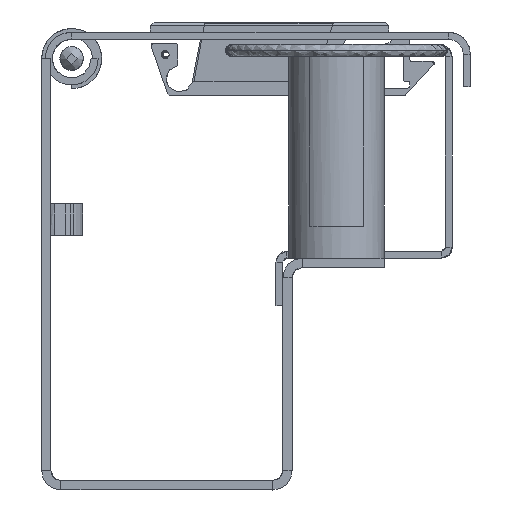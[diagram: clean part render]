
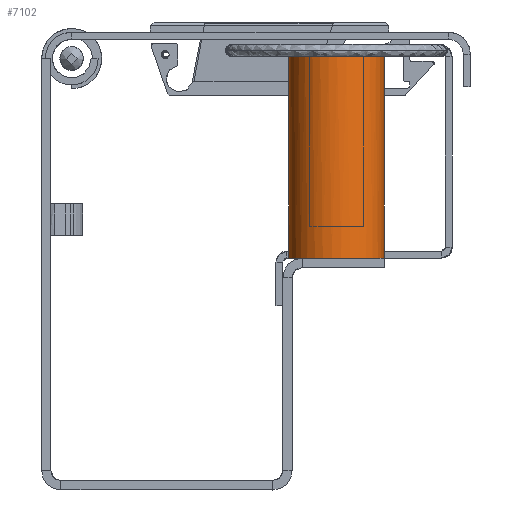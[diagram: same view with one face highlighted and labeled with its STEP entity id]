
A CAD part, front view. The second image highlights one B-rep face of the part: STEP entity #7102.
In plain terms, the highlighted free-form (B-spline) face has degree [2, 1] with [7, 2] control points.
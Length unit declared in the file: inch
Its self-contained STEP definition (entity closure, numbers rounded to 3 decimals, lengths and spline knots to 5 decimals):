
#7027=CARTESIAN_POINT('V1',(41.15269,106.23689,
   19.80976));
#7028=VERTEX_POINT('V1',#7027);
#7029=CARTESIAN_POINT('E1',(41.15269,106.23689,
   19.80976));
#7030=CARTESIAN_POINT('E1',(41.15269,105.58737,
   19.80976));
#7031=CARTESIAN_POINT('E1',(41.71519,105.91213,
   19.80976));
#7032=CARTESIAN_POINT('E1',(42.27769,106.23689,
   19.80976));
#7033=CARTESIAN_POINT('E1',(41.71519,106.56165,
   19.80976));
#7034=CARTESIAN_POINT('E1',(41.15269,106.88641,
   19.80976));
#7035=CARTESIAN_POINT('E1',(41.15269,106.23689,
   19.80976));
#7043=(BOUNDED_CURVE()B_SPLINE_CURVE(2,(#7029,#7030,#7031,#7032,
   #7033,#7034,#7035),.CIRCULAR_ARC.,.T.,.U.)
   B_SPLINE_CURVE_WITH_KNOTS((3,2,2,3),(0.0,0.33333,
   0.66667,1.0),.UNSPECIFIED.)CURVE()
   GEOMETRIC_REPRESENTATION_ITEM()RATIONAL_B_SPLINE_CURVE((1.0,
   0.5,1.0,0.5,1.0,0.5,1.0)
   )REPRESENTATION_ITEM('E1'));
#7044=EDGE_CURVE('E1',#7028,#7028,#7043,.T.);
#7052=CARTESIAN_POINT('F3',(41.15269,106.23689,
   21.48976));
#7053=CARTESIAN_POINT('F3',(41.15269,106.88641,
   21.48976));
#7054=CARTESIAN_POINT('F3',(41.71519,106.56165,
   21.48976));
#7055=CARTESIAN_POINT('F3',(42.27769,106.23689,
   21.48976));
#7056=CARTESIAN_POINT('F3',(41.71519,105.91213,
   21.48976));
#7057=CARTESIAN_POINT('F3',(41.15269,105.58737,
   21.48976));
#7058=CARTESIAN_POINT('F3',(41.15269,106.23689,
   21.48976));
#7059=CARTESIAN_POINT('F3',(41.15269,106.23689,
   19.80976));
#7060=CARTESIAN_POINT('F3',(41.15269,106.88641,
   19.80976));
#7061=CARTESIAN_POINT('F3',(41.71519,106.56165,
   19.80976));
#7062=CARTESIAN_POINT('F3',(42.27769,106.23689,
   19.80976));
#7063=CARTESIAN_POINT('F3',(41.71519,105.91213,
   19.80976));
#7064=CARTESIAN_POINT('F3',(41.15269,105.58737,
   19.80976));
#7065=CARTESIAN_POINT('F3',(41.15269,106.23689,
   19.80976));
#7073=(BOUNDED_SURFACE()B_SPLINE_SURFACE(2,1,((#7052,#7059),(
   #7053,#7060),(#7054,#7061),(#7055,#7062),(#7056,#7063),(
   #7057,#7064),(#7058,#7065)),.CYLINDRICAL_SURF.,.T.,.F.,.U.)
   B_SPLINE_SURFACE_WITH_KNOTS((3,2,2,3),(2,2),(0.0,
   0.77324,1.54647,2.31971),(0.0,1.0),
   .UNSPECIFIED.)GEOMETRIC_REPRESENTATION_ITEM()
   RATIONAL_B_SPLINE_SURFACE(((1.0,1.0),(0.5,
   0.5),(1.0,1.0),(0.5,
   0.5),(1.0,1.0),(0.5,
   0.5),(1.0,1.0)))REPRESENTATION_ITEM('F3')SURFACE()
   );
#7074=CARTESIAN_POINT('V5',(41.15269,106.23689,
   21.39601));
#7075=VERTEX_POINT('V5',#7074);
#7076=CARTESIAN_POINT('E6',(41.15269,106.23689,
   21.39601));
#7077=CARTESIAN_POINT('E6',(41.15269,106.88641,
   21.39601));
#7078=CARTESIAN_POINT('E6',(41.71519,106.56165,
   21.39601));
#7079=CARTESIAN_POINT('E6',(42.27769,106.23689,
   21.39601));
#7080=CARTESIAN_POINT('E6',(41.71519,105.91213,
   21.39601));
#7081=CARTESIAN_POINT('E6',(41.15269,105.58737,
   21.39601));
#7082=CARTESIAN_POINT('E6',(41.15269,106.23689,
   21.39601));
#7090=(BOUNDED_CURVE()B_SPLINE_CURVE(2,(#7076,#7077,#7078,#7079,
   #7080,#7081,#7082),.CIRCULAR_ARC.,.T.,.U.)
   B_SPLINE_CURVE_WITH_KNOTS((3,2,2,3),(0.0,0.33333,
   0.66667,1.0),.UNSPECIFIED.)CURVE()
   GEOMETRIC_REPRESENTATION_ITEM()RATIONAL_B_SPLINE_CURVE((1.0,
   0.5,1.0,0.5,1.0,0.5,1.0)
   )REPRESENTATION_ITEM('E6'));
#7091=EDGE_CURVE('E6',#7075,#7075,#7090,.T.);
#7092=ORIENTED_EDGE('E6',*,*,#7091,.F.);
#7093=CARTESIAN_POINT('E7',(41.15269,106.23689,
   19.80976));
#7094=CARTESIAN_POINT('E7',(41.15269,106.23689,
   21.39601));
#7095=B_SPLINE_CURVE_WITH_KNOTS('E7',1,(#7093,#7094),.POLYLINE_FORM.,
   .F.,.U.,(2,2),(0.0,0.9442),.UNSPECIFIED.);
#7096=EDGE_CURVE('E7',#7028,#7075,#7095,.T.);
#7097=ORIENTED_EDGE('E7',*,*,#7096,.F.);
#7098=ORIENTED_EDGE('F1',*,*,#7044,.F.);
#7099=ORIENTED_EDGE('E7',*,*,#7096,.T.);
#7100=EDGE_LOOP('F3',(#7092,#7097,#7098,#7099));
#7101=FACE_OUTER_BOUND('F3',#7100,.F.);
#7102=ADVANCED_FACE('F3',(#7101),#7073,.T.);
